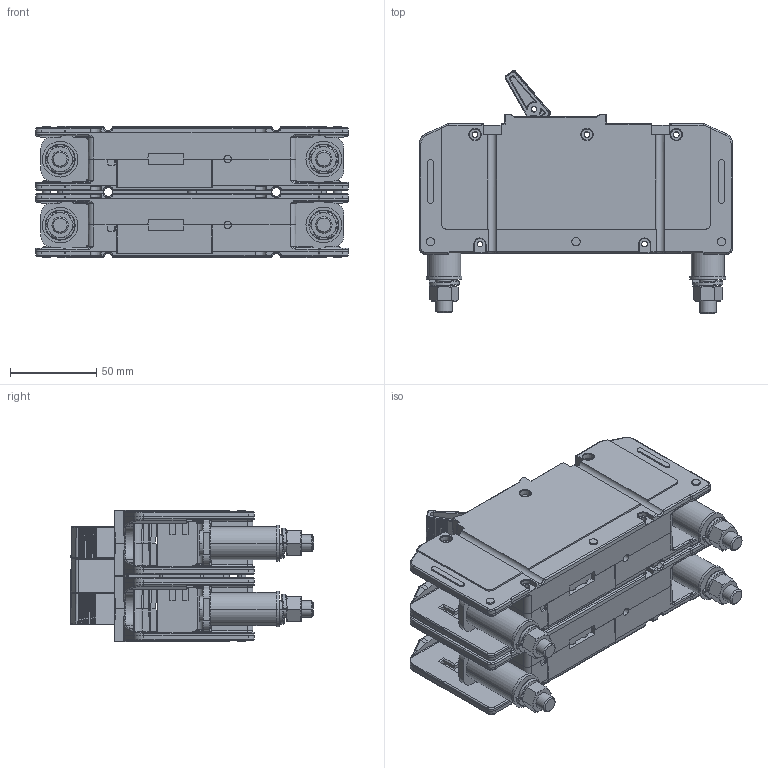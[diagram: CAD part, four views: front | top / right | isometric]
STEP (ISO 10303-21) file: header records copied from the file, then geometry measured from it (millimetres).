
FILE_DESCRIPTION((''),'2;1');
FILE_NAME('FA2-B0-14-820-12A-BG_SW0001','2012-08-21T',('danboyden'),(''),'PRO/ENGINEER BY PARAMETRIC TECHNOLOGY CORPORATION, 2010280','PRO/ENGINEER BY PARAMETRIC TECHNOLOGY CORPORATION, 2010280','');
FILE_SCHEMA(('CONFIG_CONTROL_DESIGN'));
Products named in the file (1): FA2-B0-14-820-12A-BG_SW0001
Bounding box: 180.97 x 140.65 x 76.2 mm (x, y, z)
Volume: 478578.3 mm3; surface area: 217618.8 mm2
Topology: 4 solids, 4 shells, 5705 faces, 14724 edges, 8881 vertices
Faces by surface type: plane 3172, cylinder 1514, cone 319, bspline 318, sphere 192, torus 190
Entity records: 251062 total; most frequent: CARTESIAN_POINT 117571, ORIENTED_EDGE 29416, DIRECTION 25141, EDGE_CURVE 14708, VECTOR 9573, LINE 9573, VERTEX_POINT 8881, AXIS2_PLACEMENT_3D 7784
